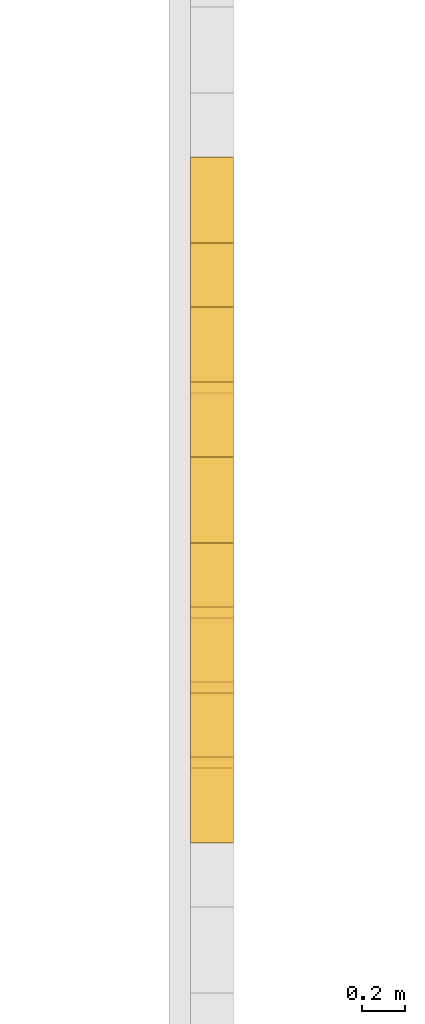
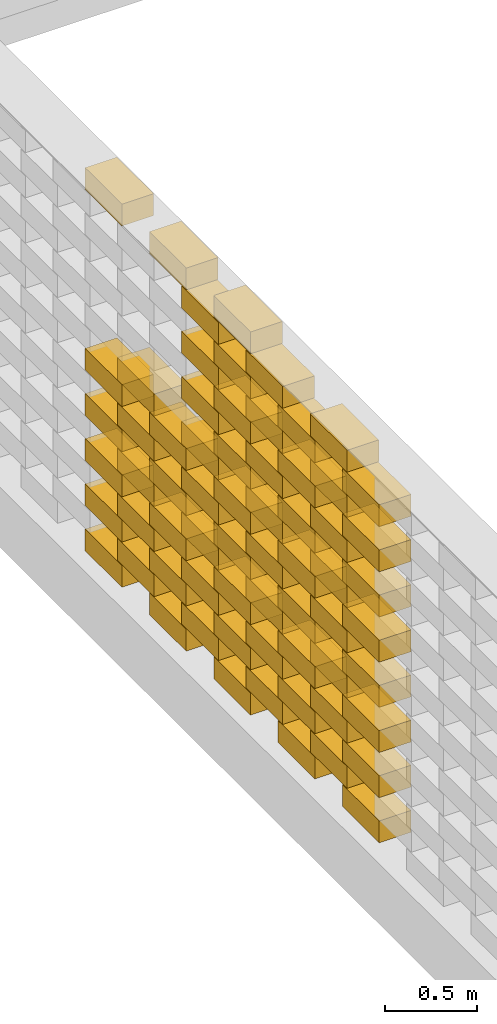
# One storey, part 44 of 62: 79 railings.
"""IFC2X3 building model written with IfcOpenShell, lengths in millimetres."""

from ifc_helpers import new_model, entity, si_unit, converted_unit, derived_unit, money_unit, direction, frame, origin_with_axes, place, context, subcontext, project, spatial, polyline, outline, extrude, material, type_object, element, save


model = new_model("IFC2X3")

# Units and contexts
model_context = context("Model", 3, precision=0.01, world=origin_with_axes(), true_north=direction((0.0, 1.0)))
body_context = subcontext(model_context, "Body", "Model", "MODEL_VIEW")
ifc_project = project(units=[si_unit("LENGTHUNIT", "METRE", prefix="MILLI"), si_unit("AREAUNIT", "SQUARE_METRE"), si_unit("VOLUMEUNIT", "CUBIC_METRE"), converted_unit("PLANEANGLEUNIT", "DEGREE", entity("IfcPlaneAngleMeasure", 0.0174532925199), si_unit("PLANEANGLEUNIT", "RADIAN"), dimensions=[0, 0, 0, 0, 0, 0, 0]), si_unit("SOLIDANGLEUNIT", "STERADIAN"), money_unit("EUR"), converted_unit("TIMEUNIT", "Year", entity("IfcTimeMeasure", 31556926.0), si_unit("TIMEUNIT", "SECOND"), dimensions=[0, 0, 1, 0, 0, 0, 0]), si_unit("MASSUNIT", "GRAM", prefix="KILO"), si_unit("THERMODYNAMICTEMPERATUREUNIT", "DEGREE_CELSIUS"), si_unit("LUMINOUSINTENSITYUNIT", "LUMEN"), si_unit("ENERGYUNIT", "JOULE", prefix="MEGA"), derived_unit("THERMALCONDUCTANCEUNIT", [(si_unit("POWERUNIT", "WATT"), 1), (si_unit("LENGTHUNIT", "METRE"), -1), (si_unit("THERMODYNAMICTEMPERATUREUNIT", "KELVIN"), -1)]), derived_unit("SPECIFICHEATCAPACITYUNIT", [(si_unit("ENERGYUNIT", "JOULE"), 1), (si_unit("MASSUNIT", "GRAM", prefix="KILO"), -1), (si_unit("THERMODYNAMICTEMPERATUREUNIT", "KELVIN"), -1)]), derived_unit("MASSDENSITYUNIT", [(si_unit("MASSUNIT", "GRAM", prefix="KILO"), 1), (si_unit("VOLUMEUNIT", "CUBIC_METRE"), -1)])], contexts=[model_context])

# Site, building, storey
site_placement = place(None, origin_with_axes())
site = spatial("IfcSite", under=ifc_project, at=site_placement, Name="KIRDE 14, ELVA", CompositionType="ELEMENT")
building_placement = place(site_placement, origin_with_axes())
building = spatial("IfcBuilding", under=site, at=building_placement, Name="PPA ja Päästeameti ühishoone", CompositionType="ELEMENT")
storey_placement = place(building_placement, origin_with_axes())
storey = spatial("IfcBuildingStorey", under=building, at=storey_placement, Name="Esimene korrus", CompositionType="ELEMENT", Elevation=0.0)

# Railings
ifc_material = material(Name="Air Space")
railing_type = type_object("IfcRailingType", Name="Air Space 200", PredefinedType="NOTDEFINED")
railing_1_placement = place(storey_placement, frame((620.000149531, -5523.83984143, 2800.0), z_axis=(0.0, 0.0, 1.0), x_axis=(1.30967237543e-09, -1.0, 0.0)))
element("IfcRailing", 1, at=railing_1_placement, inside=storey, type_object=railing_type, material=ifc_material, Name="plokk", PredefinedType="NOTDEFINED", context=body_context, shape_type="SweptSolid", body=[
    extrude(outline(polyline([(0.0, 0.0), (399.99999851, 0.0), (399.99999851, 200.0), (0.0, 200.0), (0.0, 0.0)])), origin_with_axes(), (0.0, 0.0, 1.0), 145.0),
])
railing_2_placement = place(storey_placement, frame((620.000150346, -6923.83983994, 2800.0), z_axis=(0.0, 0.0, 1.0), x_axis=(1.16415321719e-09, -1.0, 0.0)))
element("IfcRailing", 2, at=railing_2_placement, inside=storey, type_object=railing_type, material=ifc_material, Name="plokk", PredefinedType="NOTDEFINED", context=body_context, shape_type="SweptSolid", body=[
    extrude(outline(polyline([(0.0, 0.0), (400.000000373, 0.0), (400.000000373, 200.0), (0.0, 200.0), (0.0, 0.0)])), origin_with_axes(), (0.0, 0.0, 1.0), 145.0),
])
railing_3_placement = place(storey_placement, frame((620.000149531, -5523.83984143, 400.0), z_axis=(0.0, 0.0, 1.0), x_axis=(1.30967237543e-09, -1.0, 0.0)))
element("IfcRailing", 3, at=railing_3_placement, inside=storey, type_object=railing_type, material=ifc_material, Name="plokk", PredefinedType="NOTDEFINED", context=body_context, shape_type="SweptSolid", body=[
    extrude(outline(polyline([(0.0, 0.0), (399.99999851, 0.0), (399.99999851, 200.0), (0.0, 200.0), (0.0, 0.0)])), origin_with_axes(), (0.0, 0.0, 1.0), 145.0),
])
railing_4_placement = place(storey_placement, frame((620.000150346, -6223.83984068, 400.0), z_axis=(0.0, 0.0, 1.0), x_axis=(5.82076609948e-10, -1.0, 0.0)))
element("IfcRailing", 4, at=railing_4_placement, inside=storey, type_object=railing_type, material=ifc_material, Name="plokk", PredefinedType="NOTDEFINED", context=body_context, shape_type="SweptSolid", body=[
    extrude(outline(polyline([(0.0, 0.0), (399.999999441, 0.0), (399.999999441, 200.0), (0.0, 200.0), (0.0, 0.0)])), origin_with_axes(), (0.0, 0.0, 1.0), 145.0),
])
railing_5_placement = place(storey_placement, frame((620.000150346, -6923.83983994, 400.0), z_axis=(0.0, 0.0, 1.0), x_axis=(1.16415321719e-09, -1.0, 0.0)))
element("IfcRailing", 5, at=railing_5_placement, inside=storey, type_object=railing_type, material=ifc_material, Name="plokk", PredefinedType="NOTDEFINED", context=body_context, shape_type="SweptSolid", body=[
    extrude(outline(polyline([(0.0, 0.0), (400.000000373, 0.0), (400.000000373, 200.0), (0.0, 200.0), (0.0, 0.0)])), origin_with_axes(), (0.0, 0.0, 1.0), 145.0),
])
railing_6_placement = place(storey_placement, frame((620.000150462, -7623.83984013, 400.0), z_axis=(0.0, 0.0, 1.0), x_axis=(1.16415321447e-09, -1.0, 0.0)))
element("IfcRailing", 6, at=railing_6_placement, inside=storey, type_object=railing_type, material=ifc_material, Name="plokk", PredefinedType="NOTDEFINED", context=body_context, shape_type="SweptSolid", body=[
    extrude(outline(polyline([(0.0, 0.0), (400.000001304, 0.0), (400.000001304, 200.0), (0.0, 200.0), (0.0, 0.0)])), origin_with_axes(), (0.0, 0.0, 1.0), 145.0),
])
railing_7_placement = place(storey_placement, frame((620.000150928, -8323.83984031, 400.0), z_axis=(0.0, 0.0, 1.0), x_axis=(0.0, -1.0, 0.0)))
element("IfcRailing", 7, at=railing_7_placement, inside=storey, type_object=railing_type, material=ifc_material, Name="plokk", PredefinedType="NOTDEFINED", context=body_context, shape_type="SweptSolid", body=[
    extrude(outline(polyline([(0.0, 0.0), (399.999999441, 0.0), (399.999999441, 200.0), (0.0, 200.0), (0.0, 0.0)])), origin_with_axes(), (0.0, 0.0, 1.0), 145.0),
])
railing_8_placement = place(storey_placement, frame((620.000150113, -5873.83984013, 550.0), z_axis=(0.0, 0.0, 1.0), x_axis=(0.0, -1.0, 0.0)))
element("IfcRailing", 8, at=railing_8_placement, inside=storey, type_object=railing_type, material=ifc_material, Name="plokk", PredefinedType="NOTDEFINED", context=body_context, shape_type="SweptSolid", body=[
    extrude(outline(polyline([(0.0, 0.0), (400.000000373, 0.0), (400.000000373, 200.0), (0.0, 200.0), (0.0, 0.0)])), origin_with_axes(), (0.0, 0.0, 1.0), 145.0),
])
for number, where, z_axis, x_axis in (
    (9, (620.000150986, -6573.83983938, 550.0), (0.0, 0.0, 1.0), (-4.36557457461e-10, -1.0, 0.0)),
    (10, (620.000150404, -7273.8398405, 550.0), (0.0, 0.0, 1.0), (-4.36557457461e-10, -1.0, 0.0)),
    (11, (620.000151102, -7973.83983975, 550.0), (0.0, 0.0, 1.0), (-4.36557457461e-10, -1.0, 0.0)),
):
    element("IfcRailing", number, at=place(storey_placement, frame(where, z_axis=z_axis, x_axis=x_axis)), inside=storey, type_object=railing_type, material=ifc_material, Name="plokk", PredefinedType="NOTDEFINED", context=body_context, shape_type="SweptSolid", body=[
        extrude(outline(polyline([(0.0, 0.0), (399.999999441, 0.0), (399.999999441, 200.0), (0.0, 200.0), (0.0, 0.0)])), origin_with_axes(), (0.0, 0.0, 1.0), 145.0),
    ])
railing_9_placement = place(storey_placement, frame((620.000149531, -5523.83984143, 700.0), z_axis=(0.0, 0.0, 1.0), x_axis=(1.30967237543e-09, -1.0, 0.0)))
element("IfcRailing", 12, at=railing_9_placement, inside=storey, type_object=railing_type, material=ifc_material, Name="plokk", PredefinedType="NOTDEFINED", context=body_context, shape_type="SweptSolid", body=[
    extrude(outline(polyline([(0.0, 0.0), (399.99999851, 0.0), (399.99999851, 200.0), (0.0, 200.0), (0.0, 0.0)])), origin_with_axes(), (0.0, 0.0, 1.0), 145.0),
])
railing_10_placement = place(storey_placement, frame((620.000150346, -6223.83984068, 700.0), z_axis=(0.0, 0.0, 1.0), x_axis=(5.82076609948e-10, -1.0, 0.0)))
element("IfcRailing", 13, at=railing_10_placement, inside=storey, type_object=railing_type, material=ifc_material, Name="plokk", PredefinedType="NOTDEFINED", context=body_context, shape_type="SweptSolid", body=[
    extrude(outline(polyline([(0.0, 0.0), (399.999999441, 0.0), (399.999999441, 200.0), (0.0, 200.0), (0.0, 0.0)])), origin_with_axes(), (0.0, 0.0, 1.0), 145.0),
])
railing_11_placement = place(storey_placement, frame((620.000150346, -6923.83983994, 700.0), z_axis=(0.0, 0.0, 1.0), x_axis=(1.16415321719e-09, -1.0, 0.0)))
element("IfcRailing", 14, at=railing_11_placement, inside=storey, type_object=railing_type, material=ifc_material, Name="plokk", PredefinedType="NOTDEFINED", context=body_context, shape_type="SweptSolid", body=[
    extrude(outline(polyline([(0.0, 0.0), (400.000000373, 0.0), (400.000000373, 200.0), (0.0, 200.0), (0.0, 0.0)])), origin_with_axes(), (0.0, 0.0, 1.0), 145.0),
])
railing_12_placement = place(storey_placement, frame((620.000150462, -7623.83984013, 700.0), z_axis=(0.0, 0.0, 1.0), x_axis=(1.16415321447e-09, -1.0, 0.0)))
element("IfcRailing", 15, at=railing_12_placement, inside=storey, type_object=railing_type, material=ifc_material, Name="plokk", PredefinedType="NOTDEFINED", context=body_context, shape_type="SweptSolid", body=[
    extrude(outline(polyline([(0.0, 0.0), (400.000001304, 0.0), (400.000001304, 200.0), (0.0, 200.0), (0.0, 0.0)])), origin_with_axes(), (0.0, 0.0, 1.0), 145.0),
])
railing_13_placement = place(storey_placement, frame((620.000150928, -8323.83984031, 700.0), z_axis=(0.0, 0.0, 1.0), x_axis=(0.0, -1.0, 0.0)))
element("IfcRailing", 16, at=railing_13_placement, inside=storey, type_object=railing_type, material=ifc_material, Name="plokk", PredefinedType="NOTDEFINED", context=body_context, shape_type="SweptSolid", body=[
    extrude(outline(polyline([(0.0, 0.0), (399.999999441, 0.0), (399.999999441, 200.0), (0.0, 200.0), (0.0, 0.0)])), origin_with_axes(), (0.0, 0.0, 1.0), 145.0),
])
railing_14_placement = place(storey_placement, frame((620.000150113, -5873.83984013, 850.0), z_axis=(0.0, 0.0, 1.0), x_axis=(0.0, -1.0, 0.0)))
element("IfcRailing", 17, at=railing_14_placement, inside=storey, type_object=railing_type, material=ifc_material, Name="plokk", PredefinedType="NOTDEFINED", context=body_context, shape_type="SweptSolid", body=[
    extrude(outline(polyline([(0.0, 0.0), (400.000000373, 0.0), (400.000000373, 200.0), (0.0, 200.0), (0.0, 0.0)])), origin_with_axes(), (0.0, 0.0, 1.0), 145.0),
])
for number, where, z_axis, x_axis in (
    (18, (620.000150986, -6573.83983938, 850.0), (0.0, 0.0, 1.0), (-4.36557457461e-10, -1.0, 0.0)),
    (19, (620.000150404, -7273.8398405, 850.0), (0.0, 0.0, 1.0), (-4.36557457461e-10, -1.0, 0.0)),
    (20, (620.000151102, -7973.83983975, 850.0), (0.0, 0.0, 1.0), (-4.36557457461e-10, -1.0, 0.0)),
):
    element("IfcRailing", number, at=place(storey_placement, frame(where, z_axis=z_axis, x_axis=x_axis)), inside=storey, type_object=railing_type, material=ifc_material, Name="plokk", PredefinedType="NOTDEFINED", context=body_context, shape_type="SweptSolid", body=[
        extrude(outline(polyline([(0.0, 0.0), (399.999999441, 0.0), (399.999999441, 200.0), (0.0, 200.0), (0.0, 0.0)])), origin_with_axes(), (0.0, 0.0, 1.0), 145.0),
    ])
railing_15_placement = place(storey_placement, frame((620.000149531, -5523.83984143, 1000.0), z_axis=(0.0, 0.0, 1.0), x_axis=(1.30967237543e-09, -1.0, 0.0)))
element("IfcRailing", 21, at=railing_15_placement, inside=storey, type_object=railing_type, material=ifc_material, Name="plokk", PredefinedType="NOTDEFINED", context=body_context, shape_type="SweptSolid", body=[
    extrude(outline(polyline([(0.0, 0.0), (399.99999851, 0.0), (399.99999851, 200.0), (0.0, 200.0), (0.0, 0.0)])), origin_with_axes(), (0.0, 0.0, 1.0), 145.0),
])
railing_16_placement = place(storey_placement, frame((620.000150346, -6223.83984068, 1000.0), z_axis=(0.0, 0.0, 1.0), x_axis=(5.82076609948e-10, -1.0, 0.0)))
element("IfcRailing", 22, at=railing_16_placement, inside=storey, type_object=railing_type, material=ifc_material, Name="plokk", PredefinedType="NOTDEFINED", context=body_context, shape_type="SweptSolid", body=[
    extrude(outline(polyline([(0.0, 0.0), (399.999999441, 0.0), (399.999999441, 200.0), (0.0, 200.0), (0.0, 0.0)])), origin_with_axes(), (0.0, 0.0, 1.0), 145.0),
])
railing_17_placement = place(storey_placement, frame((620.000150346, -6923.83983994, 1000.0), z_axis=(0.0, 0.0, 1.0), x_axis=(1.16415321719e-09, -1.0, 0.0)))
element("IfcRailing", 23, at=railing_17_placement, inside=storey, type_object=railing_type, material=ifc_material, Name="plokk", PredefinedType="NOTDEFINED", context=body_context, shape_type="SweptSolid", body=[
    extrude(outline(polyline([(0.0, 0.0), (400.000000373, 0.0), (400.000000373, 200.0), (0.0, 200.0), (0.0, 0.0)])), origin_with_axes(), (0.0, 0.0, 1.0), 145.0),
])
railing_18_placement = place(storey_placement, frame((620.000150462, -7623.83984013, 1000.0), z_axis=(0.0, 0.0, 1.0), x_axis=(1.16415321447e-09, -1.0, 0.0)))
element("IfcRailing", 24, at=railing_18_placement, inside=storey, type_object=railing_type, material=ifc_material, Name="plokk", PredefinedType="NOTDEFINED", context=body_context, shape_type="SweptSolid", body=[
    extrude(outline(polyline([(0.0, 0.0), (400.000001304, 0.0), (400.000001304, 200.0), (0.0, 200.0), (0.0, 0.0)])), origin_with_axes(), (0.0, 0.0, 1.0), 145.0),
])
for number, where, z_axis, x_axis in (
    (25, (620.000150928, -8323.83984031, 1000.0), (0.0, 0.0, 1.0), (0.0, -1.0, 0.0)),
    (26, (620.000150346, -6223.83984068, 2800.0), (0.0, 0.0, 1.0), (5.82076609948e-10, -1.0, 0.0)),
):
    element("IfcRailing", number, at=place(storey_placement, frame(where, z_axis=z_axis, x_axis=x_axis)), inside=storey, type_object=railing_type, material=ifc_material, Name="plokk", PredefinedType="NOTDEFINED", context=body_context, shape_type="SweptSolid", body=[
        extrude(outline(polyline([(0.0, 0.0), (399.999999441, 0.0), (399.999999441, 200.0), (0.0, 200.0), (0.0, 0.0)])), origin_with_axes(), (0.0, 0.0, 1.0), 145.0),
    ])
railing_19_placement = place(storey_placement, frame((620.000149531, -5523.83984143, 1000.0), z_axis=(0.0, 0.0, 1.0), x_axis=(1.30967237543e-09, -1.0, 0.0)))
element("IfcRailing", 27, at=railing_19_placement, inside=storey, type_object=railing_type, material=ifc_material, Name="plokk", PredefinedType="NOTDEFINED", context=body_context, shape_type="SweptSolid", body=[
    extrude(outline(polyline([(0.0, 0.0), (399.99999851, 0.0), (399.99999851, 200.0), (0.0, 200.0), (0.0, 0.0)])), origin_with_axes(), (0.0, 0.0, 1.0), 145.0),
])
railing_20_placement = place(storey_placement, frame((620.000150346, -6223.83984068, 1000.0), z_axis=(0.0, 0.0, 1.0), x_axis=(5.82076609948e-10, -1.0, 0.0)))
element("IfcRailing", 28, at=railing_20_placement, inside=storey, type_object=railing_type, material=ifc_material, Name="plokk", PredefinedType="NOTDEFINED", context=body_context, shape_type="SweptSolid", body=[
    extrude(outline(polyline([(0.0, 0.0), (399.999999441, 0.0), (399.999999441, 200.0), (0.0, 200.0), (0.0, 0.0)])), origin_with_axes(), (0.0, 0.0, 1.0), 145.0),
])
railing_21_placement = place(storey_placement, frame((620.000150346, -6923.83983994, 1000.0), z_axis=(0.0, 0.0, 1.0), x_axis=(1.16415321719e-09, -1.0, 0.0)))
element("IfcRailing", 29, at=railing_21_placement, inside=storey, type_object=railing_type, material=ifc_material, Name="plokk", PredefinedType="NOTDEFINED", context=body_context, shape_type="SweptSolid", body=[
    extrude(outline(polyline([(0.0, 0.0), (400.000000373, 0.0), (400.000000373, 200.0), (0.0, 200.0), (0.0, 0.0)])), origin_with_axes(), (0.0, 0.0, 1.0), 145.0),
])
railing_22_placement = place(storey_placement, frame((620.000150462, -7623.83984013, 1000.0), z_axis=(0.0, 0.0, 1.0), x_axis=(1.16415321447e-09, -1.0, 0.0)))
element("IfcRailing", 30, at=railing_22_placement, inside=storey, type_object=railing_type, material=ifc_material, Name="plokk", PredefinedType="NOTDEFINED", context=body_context, shape_type="SweptSolid", body=[
    extrude(outline(polyline([(0.0, 0.0), (400.000001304, 0.0), (400.000001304, 200.0), (0.0, 200.0), (0.0, 0.0)])), origin_with_axes(), (0.0, 0.0, 1.0), 145.0),
])
railing_23_placement = place(storey_placement, frame((620.000150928, -8323.83984031, 1000.0), z_axis=(0.0, 0.0, 1.0), x_axis=(0.0, -1.0, 0.0)))
element("IfcRailing", 31, at=railing_23_placement, inside=storey, type_object=railing_type, material=ifc_material, Name="plokk", PredefinedType="NOTDEFINED", context=body_context, shape_type="SweptSolid", body=[
    extrude(outline(polyline([(0.0, 0.0), (399.999999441, 0.0), (399.999999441, 200.0), (0.0, 200.0), (0.0, 0.0)])), origin_with_axes(), (0.0, 0.0, 1.0), 145.0),
])
railing_24_placement = place(storey_placement, frame((620.000150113, -5873.83984013, 1150.0), z_axis=(0.0, 0.0, 1.0), x_axis=(0.0, -1.0, 0.0)))
element("IfcRailing", 32, at=railing_24_placement, inside=storey, type_object=railing_type, material=ifc_material, Name="plokk", PredefinedType="NOTDEFINED", context=body_context, shape_type="SweptSolid", body=[
    extrude(outline(polyline([(0.0, 0.0), (400.000000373, 0.0), (400.000000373, 200.0), (0.0, 200.0), (0.0, 0.0)])), origin_with_axes(), (0.0, 0.0, 1.0), 145.0),
])
for number, where, z_axis, x_axis in (
    (33, (620.000150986, -6573.83983938, 1150.0), (0.0, 0.0, 1.0), (-4.36557457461e-10, -1.0, 0.0)),
    (34, (620.000150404, -7273.8398405, 1150.0), (0.0, 0.0, 1.0), (-4.36557457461e-10, -1.0, 0.0)),
    (35, (620.000151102, -7973.83983975, 1150.0), (0.0, 0.0, 1.0), (-4.36557457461e-10, -1.0, 0.0)),
):
    element("IfcRailing", number, at=place(storey_placement, frame(where, z_axis=z_axis, x_axis=x_axis)), inside=storey, type_object=railing_type, material=ifc_material, Name="plokk", PredefinedType="NOTDEFINED", context=body_context, shape_type="SweptSolid", body=[
        extrude(outline(polyline([(0.0, 0.0), (399.999999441, 0.0), (399.999999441, 200.0), (0.0, 200.0), (0.0, 0.0)])), origin_with_axes(), (0.0, 0.0, 1.0), 145.0),
    ])
railing_25_placement = place(storey_placement, frame((620.000149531, -5523.83984143, 1300.0), z_axis=(0.0, 0.0, 1.0), x_axis=(1.30967237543e-09, -1.0, 0.0)))
element("IfcRailing", 36, at=railing_25_placement, inside=storey, type_object=railing_type, material=ifc_material, Name="plokk", PredefinedType="NOTDEFINED", context=body_context, shape_type="SweptSolid", body=[
    extrude(outline(polyline([(0.0, 0.0), (399.99999851, 0.0), (399.99999851, 200.0), (0.0, 200.0), (0.0, 0.0)])), origin_with_axes(), (0.0, 0.0, 1.0), 145.0),
])
railing_26_placement = place(storey_placement, frame((620.000150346, -6223.83984068, 1300.0), z_axis=(0.0, 0.0, 1.0), x_axis=(5.82076609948e-10, -1.0, 0.0)))
element("IfcRailing", 37, at=railing_26_placement, inside=storey, type_object=railing_type, material=ifc_material, Name="plokk", PredefinedType="NOTDEFINED", context=body_context, shape_type="SweptSolid", body=[
    extrude(outline(polyline([(0.0, 0.0), (399.999999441, 0.0), (399.999999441, 200.0), (0.0, 200.0), (0.0, 0.0)])), origin_with_axes(), (0.0, 0.0, 1.0), 145.0),
])
railing_27_placement = place(storey_placement, frame((620.000150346, -6923.83983994, 1300.0), z_axis=(0.0, 0.0, 1.0), x_axis=(1.16415321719e-09, -1.0, 0.0)))
element("IfcRailing", 38, at=railing_27_placement, inside=storey, type_object=railing_type, material=ifc_material, Name="plokk", PredefinedType="NOTDEFINED", context=body_context, shape_type="SweptSolid", body=[
    extrude(outline(polyline([(0.0, 0.0), (400.000000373, 0.0), (400.000000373, 200.0), (0.0, 200.0), (0.0, 0.0)])), origin_with_axes(), (0.0, 0.0, 1.0), 145.0),
])
railing_28_placement = place(storey_placement, frame((620.000150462, -7623.83984013, 1300.0), z_axis=(0.0, 0.0, 1.0), x_axis=(1.16415321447e-09, -1.0, 0.0)))
element("IfcRailing", 39, at=railing_28_placement, inside=storey, type_object=railing_type, material=ifc_material, Name="plokk", PredefinedType="NOTDEFINED", context=body_context, shape_type="SweptSolid", body=[
    extrude(outline(polyline([(0.0, 0.0), (400.000001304, 0.0), (400.000001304, 200.0), (0.0, 200.0), (0.0, 0.0)])), origin_with_axes(), (0.0, 0.0, 1.0), 145.0),
])
railing_29_placement = place(storey_placement, frame((620.000150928, -8323.83984031, 1300.0), z_axis=(0.0, 0.0, 1.0), x_axis=(0.0, -1.0, 0.0)))
element("IfcRailing", 40, at=railing_29_placement, inside=storey, type_object=railing_type, material=ifc_material, Name="plokk", PredefinedType="NOTDEFINED", context=body_context, shape_type="SweptSolid", body=[
    extrude(outline(polyline([(0.0, 0.0), (399.999999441, 0.0), (399.999999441, 200.0), (0.0, 200.0), (0.0, 0.0)])), origin_with_axes(), (0.0, 0.0, 1.0), 145.0),
])
railing_30_placement = place(storey_placement, frame((620.000150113, -5873.83984013, 1450.0), z_axis=(0.0, 0.0, 1.0), x_axis=(0.0, -1.0, 0.0)))
element("IfcRailing", 41, at=railing_30_placement, inside=storey, type_object=railing_type, material=ifc_material, Name="plokk", PredefinedType="NOTDEFINED", context=body_context, shape_type="SweptSolid", body=[
    extrude(outline(polyline([(0.0, 0.0), (400.000000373, 0.0), (400.000000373, 200.0), (0.0, 200.0), (0.0, 0.0)])), origin_with_axes(), (0.0, 0.0, 1.0), 145.0),
])
for number, where, z_axis, x_axis in (
    (42, (620.000150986, -6573.83983938, 1450.0), (0.0, 0.0, 1.0), (-4.36557457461e-10, -1.0, 0.0)),
    (43, (620.000150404, -7273.8398405, 1450.0), (0.0, 0.0, 1.0), (-4.36557457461e-10, -1.0, 0.0)),
    (44, (620.000151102, -7973.83983975, 1450.0), (0.0, 0.0, 1.0), (-4.36557457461e-10, -1.0, 0.0)),
):
    element("IfcRailing", number, at=place(storey_placement, frame(where, z_axis=z_axis, x_axis=x_axis)), inside=storey, type_object=railing_type, material=ifc_material, Name="plokk", PredefinedType="NOTDEFINED", context=body_context, shape_type="SweptSolid", body=[
        extrude(outline(polyline([(0.0, 0.0), (399.999999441, 0.0), (399.999999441, 200.0), (0.0, 200.0), (0.0, 0.0)])), origin_with_axes(), (0.0, 0.0, 1.0), 145.0),
    ])
railing_31_placement = place(storey_placement, frame((620.000149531, -5523.83984143, 1600.0), z_axis=(0.0, 0.0, 1.0), x_axis=(1.30967237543e-09, -1.0, 0.0)))
element("IfcRailing", 45, at=railing_31_placement, inside=storey, type_object=railing_type, material=ifc_material, Name="plokk", PredefinedType="NOTDEFINED", context=body_context, shape_type="SweptSolid", body=[
    extrude(outline(polyline([(0.0, 0.0), (399.99999851, 0.0), (399.99999851, 200.0), (0.0, 200.0), (0.0, 0.0)])), origin_with_axes(), (0.0, 0.0, 1.0), 145.0),
])
railing_32_placement = place(storey_placement, frame((620.000150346, -6223.83984068, 1600.0), z_axis=(0.0, 0.0, 1.0), x_axis=(5.82076609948e-10, -1.0, 0.0)))
element("IfcRailing", 46, at=railing_32_placement, inside=storey, type_object=railing_type, material=ifc_material, Name="plokk", PredefinedType="NOTDEFINED", context=body_context, shape_type="SweptSolid", body=[
    extrude(outline(polyline([(0.0, 0.0), (399.999999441, 0.0), (399.999999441, 200.0), (0.0, 200.0), (0.0, 0.0)])), origin_with_axes(), (0.0, 0.0, 1.0), 145.0),
])
railing_33_placement = place(storey_placement, frame((620.000150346, -6923.83983994, 1600.0), z_axis=(0.0, 0.0, 1.0), x_axis=(1.16415321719e-09, -1.0, 0.0)))
element("IfcRailing", 47, at=railing_33_placement, inside=storey, type_object=railing_type, material=ifc_material, Name="plokk", PredefinedType="NOTDEFINED", context=body_context, shape_type="SweptSolid", body=[
    extrude(outline(polyline([(0.0, 0.0), (400.000000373, 0.0), (400.000000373, 200.0), (0.0, 200.0), (0.0, 0.0)])), origin_with_axes(), (0.0, 0.0, 1.0), 145.0),
])
railing_34_placement = place(storey_placement, frame((620.000150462, -7623.83984013, 1600.0), z_axis=(0.0, 0.0, 1.0), x_axis=(1.16415321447e-09, -1.0, 0.0)))
element("IfcRailing", 48, at=railing_34_placement, inside=storey, type_object=railing_type, material=ifc_material, Name="plokk", PredefinedType="NOTDEFINED", context=body_context, shape_type="SweptSolid", body=[
    extrude(outline(polyline([(0.0, 0.0), (400.000001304, 0.0), (400.000001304, 200.0), (0.0, 200.0), (0.0, 0.0)])), origin_with_axes(), (0.0, 0.0, 1.0), 145.0),
])
railing_35_placement = place(storey_placement, frame((620.000150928, -8323.83984031, 1600.0), z_axis=(0.0, 0.0, 1.0), x_axis=(0.0, -1.0, 0.0)))
element("IfcRailing", 49, at=railing_35_placement, inside=storey, type_object=railing_type, material=ifc_material, Name="plokk", PredefinedType="NOTDEFINED", context=body_context, shape_type="SweptSolid", body=[
    extrude(outline(polyline([(0.0, 0.0), (399.999999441, 0.0), (399.999999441, 200.0), (0.0, 200.0), (0.0, 0.0)])), origin_with_axes(), (0.0, 0.0, 1.0), 145.0),
])
railing_36_placement = place(storey_placement, frame((620.000149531, -5523.83984143, 1600.0), z_axis=(0.0, 0.0, 1.0), x_axis=(1.30967237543e-09, -1.0, 0.0)))
element("IfcRailing", 50, at=railing_36_placement, inside=storey, type_object=railing_type, material=ifc_material, Name="plokk", PredefinedType="NOTDEFINED", context=body_context, shape_type="SweptSolid", body=[
    extrude(outline(polyline([(0.0, 0.0), (399.99999851, 0.0), (399.99999851, 200.0), (0.0, 200.0), (0.0, 0.0)])), origin_with_axes(), (0.0, 0.0, 1.0), 145.0),
])
railing_37_placement = place(storey_placement, frame((620.000150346, -6223.83984068, 1600.0), z_axis=(0.0, 0.0, 1.0), x_axis=(5.82076609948e-10, -1.0, 0.0)))
element("IfcRailing", 51, at=railing_37_placement, inside=storey, type_object=railing_type, material=ifc_material, Name="plokk", PredefinedType="NOTDEFINED", context=body_context, shape_type="SweptSolid", body=[
    extrude(outline(polyline([(0.0, 0.0), (399.999999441, 0.0), (399.999999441, 200.0), (0.0, 200.0), (0.0, 0.0)])), origin_with_axes(), (0.0, 0.0, 1.0), 145.0),
])
railing_38_placement = place(storey_placement, frame((620.000150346, -6923.83983994, 1600.0), z_axis=(0.0, 0.0, 1.0), x_axis=(1.16415321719e-09, -1.0, 0.0)))
element("IfcRailing", 52, at=railing_38_placement, inside=storey, type_object=railing_type, material=ifc_material, Name="plokk", PredefinedType="NOTDEFINED", context=body_context, shape_type="SweptSolid", body=[
    extrude(outline(polyline([(0.0, 0.0), (400.000000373, 0.0), (400.000000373, 200.0), (0.0, 200.0), (0.0, 0.0)])), origin_with_axes(), (0.0, 0.0, 1.0), 145.0),
])
railing_39_placement = place(storey_placement, frame((620.000150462, -7623.83984013, 1600.0), z_axis=(0.0, 0.0, 1.0), x_axis=(1.16415321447e-09, -1.0, 0.0)))
element("IfcRailing", 53, at=railing_39_placement, inside=storey, type_object=railing_type, material=ifc_material, Name="plokk", PredefinedType="NOTDEFINED", context=body_context, shape_type="SweptSolid", body=[
    extrude(outline(polyline([(0.0, 0.0), (400.000001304, 0.0), (400.000001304, 200.0), (0.0, 200.0), (0.0, 0.0)])), origin_with_axes(), (0.0, 0.0, 1.0), 145.0),
])
railing_40_placement = place(storey_placement, frame((620.000150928, -8323.83984031, 1600.0), z_axis=(0.0, 0.0, 1.0), x_axis=(0.0, -1.0, 0.0)))
element("IfcRailing", 54, at=railing_40_placement, inside=storey, type_object=railing_type, material=ifc_material, Name="plokk", PredefinedType="NOTDEFINED", context=body_context, shape_type="SweptSolid", body=[
    extrude(outline(polyline([(0.0, 0.0), (399.999999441, 0.0), (399.999999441, 200.0), (0.0, 200.0), (0.0, 0.0)])), origin_with_axes(), (0.0, 0.0, 1.0), 145.0),
])
railing_41_placement = place(storey_placement, frame((620.000150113, -5873.83984013, 1750.0), z_axis=(0.0, 0.0, 1.0), x_axis=(0.0, -1.0, 0.0)))
element("IfcRailing", 55, at=railing_41_placement, inside=storey, type_object=railing_type, material=ifc_material, Name="plokk", PredefinedType="NOTDEFINED", context=body_context, shape_type="SweptSolid", body=[
    extrude(outline(polyline([(0.0, 0.0), (400.000000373, 0.0), (400.000000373, 200.0), (0.0, 200.0), (0.0, 0.0)])), origin_with_axes(), (0.0, 0.0, 1.0), 145.0),
])
for number, where, z_axis, x_axis in (
    (56, (620.000150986, -6573.83983938, 1750.0), (0.0, 0.0, 1.0), (-4.36557457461e-10, -1.0, 0.0)),
    (57, (620.000150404, -7273.8398405, 1750.0), (0.0, 0.0, 1.0), (-4.36557457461e-10, -1.0, 0.0)),
    (58, (620.000151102, -7973.83983975, 1750.0), (0.0, 0.0, 1.0), (-4.36557457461e-10, -1.0, 0.0)),
):
    element("IfcRailing", number, at=place(storey_placement, frame(where, z_axis=z_axis, x_axis=x_axis)), inside=storey, type_object=railing_type, material=ifc_material, Name="plokk", PredefinedType="NOTDEFINED", context=body_context, shape_type="SweptSolid", body=[
        extrude(outline(polyline([(0.0, 0.0), (399.999999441, 0.0), (399.999999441, 200.0), (0.0, 200.0), (0.0, 0.0)])), origin_with_axes(), (0.0, 0.0, 1.0), 145.0),
    ])
railing_42_placement = place(storey_placement, frame((620.000150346, -6923.83983994, 1900.0), z_axis=(0.0, 0.0, 1.0), x_axis=(1.16415321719e-09, -1.0, 0.0)))
element("IfcRailing", 59, at=railing_42_placement, inside=storey, type_object=railing_type, material=ifc_material, Name="plokk", PredefinedType="NOTDEFINED", context=body_context, shape_type="SweptSolid", body=[
    extrude(outline(polyline([(0.0, 0.0), (400.000000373, 0.0), (400.000000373, 200.0), (0.0, 200.0), (0.0, 0.0)])), origin_with_axes(), (0.0, 0.0, 1.0), 145.0),
])
railing_43_placement = place(storey_placement, frame((620.000150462, -7623.83984013, 1900.0), z_axis=(0.0, 0.0, 1.0), x_axis=(1.16415321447e-09, -1.0, 0.0)))
element("IfcRailing", 60, at=railing_43_placement, inside=storey, type_object=railing_type, material=ifc_material, Name="plokk", PredefinedType="NOTDEFINED", context=body_context, shape_type="SweptSolid", body=[
    extrude(outline(polyline([(0.0, 0.0), (400.000001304, 0.0), (400.000001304, 200.0), (0.0, 200.0), (0.0, 0.0)])), origin_with_axes(), (0.0, 0.0, 1.0), 145.0),
])
for number, where, z_axis, x_axis in (
    (61, (620.000150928, -8323.83984031, 1900.0), (0.0, 0.0, 1.0), (0.0, -1.0, 0.0)),
    (62, (620.000150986, -6573.83983938, 2050.0), (0.0, 0.0, 1.0), (-4.36557457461e-10, -1.0, 0.0)),
    (63, (620.000150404, -7273.8398405, 2050.0), (0.0, 0.0, 1.0), (-4.36557457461e-10, -1.0, 0.0)),
    (64, (620.000151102, -7973.83983975, 2050.0), (0.0, 0.0, 1.0), (-4.36557457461e-10, -1.0, 0.0)),
):
    element("IfcRailing", number, at=place(storey_placement, frame(where, z_axis=z_axis, x_axis=x_axis)), inside=storey, type_object=railing_type, material=ifc_material, Name="plokk", PredefinedType="NOTDEFINED", context=body_context, shape_type="SweptSolid", body=[
        extrude(outline(polyline([(0.0, 0.0), (399.999999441, 0.0), (399.999999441, 200.0), (0.0, 200.0), (0.0, 0.0)])), origin_with_axes(), (0.0, 0.0, 1.0), 145.0),
    ])
railing_44_placement = place(storey_placement, frame((620.000150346, -6923.83983994, 2200.0), z_axis=(0.0, 0.0, 1.0), x_axis=(1.16415321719e-09, -1.0, 0.0)))
element("IfcRailing", 65, at=railing_44_placement, inside=storey, type_object=railing_type, material=ifc_material, Name="plokk", PredefinedType="NOTDEFINED", context=body_context, shape_type="SweptSolid", body=[
    extrude(outline(polyline([(0.0, 0.0), (400.000000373, 0.0), (400.000000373, 200.0), (0.0, 200.0), (0.0, 0.0)])), origin_with_axes(), (0.0, 0.0, 1.0), 145.0),
])
railing_45_placement = place(storey_placement, frame((620.000150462, -7623.83984013, 2200.0), z_axis=(0.0, 0.0, 1.0), x_axis=(1.16415321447e-09, -1.0, 0.0)))
element("IfcRailing", 66, at=railing_45_placement, inside=storey, type_object=railing_type, material=ifc_material, Name="plokk", PredefinedType="NOTDEFINED", context=body_context, shape_type="SweptSolid", body=[
    extrude(outline(polyline([(0.0, 0.0), (400.000001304, 0.0), (400.000001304, 200.0), (0.0, 200.0), (0.0, 0.0)])), origin_with_axes(), (0.0, 0.0, 1.0), 145.0),
])
railing_46_placement = place(storey_placement, frame((620.000150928, -8323.83984031, 2200.0), z_axis=(0.0, 0.0, 1.0), x_axis=(0.0, -1.0, 0.0)))
element("IfcRailing", 67, at=railing_46_placement, inside=storey, type_object=railing_type, material=ifc_material, Name="plokk", PredefinedType="NOTDEFINED", context=body_context, shape_type="SweptSolid", body=[
    extrude(outline(polyline([(0.0, 0.0), (399.999999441, 0.0), (399.999999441, 200.0), (0.0, 200.0), (0.0, 0.0)])), origin_with_axes(), (0.0, 0.0, 1.0), 145.0),
])
railing_47_placement = place(storey_placement, frame((620.000150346, -6923.83983994, 2200.0), z_axis=(0.0, 0.0, 1.0), x_axis=(1.16415321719e-09, -1.0, 0.0)))
element("IfcRailing", 68, at=railing_47_placement, inside=storey, type_object=railing_type, material=ifc_material, Name="plokk", PredefinedType="NOTDEFINED", context=body_context, shape_type="SweptSolid", body=[
    extrude(outline(polyline([(0.0, 0.0), (400.000000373, 0.0), (400.000000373, 200.0), (0.0, 200.0), (0.0, 0.0)])), origin_with_axes(), (0.0, 0.0, 1.0), 145.0),
])
railing_48_placement = place(storey_placement, frame((620.000150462, -7623.83984013, 2200.0), z_axis=(0.0, 0.0, 1.0), x_axis=(1.16415321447e-09, -1.0, 0.0)))
element("IfcRailing", 69, at=railing_48_placement, inside=storey, type_object=railing_type, material=ifc_material, Name="plokk", PredefinedType="NOTDEFINED", context=body_context, shape_type="SweptSolid", body=[
    extrude(outline(polyline([(0.0, 0.0), (400.000001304, 0.0), (400.000001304, 200.0), (0.0, 200.0), (0.0, 0.0)])), origin_with_axes(), (0.0, 0.0, 1.0), 145.0),
])
for number, where, z_axis, x_axis in (
    (70, (620.000150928, -8323.83984031, 2200.0), (0.0, 0.0, 1.0), (0.0, -1.0, 0.0)),
    (71, (620.000150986, -6573.83983938, 2350.0), (0.0, 0.0, 1.0), (-4.36557457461e-10, -1.0, 0.0)),
    (72, (620.000150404, -7273.8398405, 2350.0), (0.0, 0.0, 1.0), (-4.36557457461e-10, -1.0, 0.0)),
    (73, (620.000151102, -7973.83983975, 2350.0), (0.0, 0.0, 1.0), (-4.36557457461e-10, -1.0, 0.0)),
):
    element("IfcRailing", number, at=place(storey_placement, frame(where, z_axis=z_axis, x_axis=x_axis)), inside=storey, type_object=railing_type, material=ifc_material, Name="plokk", PredefinedType="NOTDEFINED", context=body_context, shape_type="SweptSolid", body=[
        extrude(outline(polyline([(0.0, 0.0), (399.999999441, 0.0), (399.999999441, 200.0), (0.0, 200.0), (0.0, 0.0)])), origin_with_axes(), (0.0, 0.0, 1.0), 145.0),
    ])
railing_49_placement = place(storey_placement, frame((620.000150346, -6923.83983994, 2500.0), z_axis=(0.0, 0.0, 1.0), x_axis=(1.16415321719e-09, -1.0, 0.0)))
element("IfcRailing", 74, at=railing_49_placement, inside=storey, type_object=railing_type, material=ifc_material, Name="plokk", PredefinedType="NOTDEFINED", context=body_context, shape_type="SweptSolid", body=[
    extrude(outline(polyline([(0.0, 0.0), (400.000000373, 0.0), (400.000000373, 200.0), (0.0, 200.0), (0.0, 0.0)])), origin_with_axes(), (0.0, 0.0, 1.0), 145.0),
])
railing_50_placement = place(storey_placement, frame((620.000150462, -7623.83984013, 2500.0), z_axis=(0.0, 0.0, 1.0), x_axis=(1.16415321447e-09, -1.0, 0.0)))
element("IfcRailing", 75, at=railing_50_placement, inside=storey, type_object=railing_type, material=ifc_material, Name="plokk", PredefinedType="NOTDEFINED", context=body_context, shape_type="SweptSolid", body=[
    extrude(outline(polyline([(0.0, 0.0), (400.000001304, 0.0), (400.000001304, 200.0), (0.0, 200.0), (0.0, 0.0)])), origin_with_axes(), (0.0, 0.0, 1.0), 145.0),
])
for number, where, z_axis, x_axis in (
    (76, (620.000150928, -8323.83984031, 2500.0), (0.0, 0.0, 1.0), (0.0, -1.0, 0.0)),
    (77, (620.000150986, -6573.83983938, 2650.0), (0.0, 0.0, 1.0), (-4.36557457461e-10, -1.0, 0.0)),
    (78, (620.000150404, -7273.8398405, 2650.0), (0.0, 0.0, 1.0), (-4.36557457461e-10, -1.0, 0.0)),
    (79, (620.000151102, -7973.83983975, 2650.0), (0.0, 0.0, 1.0), (-4.36557457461e-10, -1.0, 0.0)),
):
    element("IfcRailing", number, at=place(storey_placement, frame(where, z_axis=z_axis, x_axis=x_axis)), inside=storey, type_object=railing_type, material=ifc_material, Name="plokk", PredefinedType="NOTDEFINED", context=body_context, shape_type="SweptSolid", body=[
        extrude(outline(polyline([(0.0, 0.0), (399.999999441, 0.0), (399.999999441, 200.0), (0.0, 200.0), (0.0, 0.0)])), origin_with_axes(), (0.0, 0.0, 1.0), 145.0),
    ])

save(model, "model.ifc")
